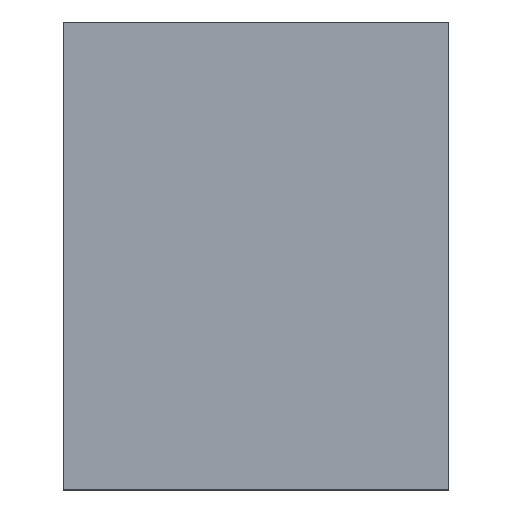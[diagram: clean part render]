
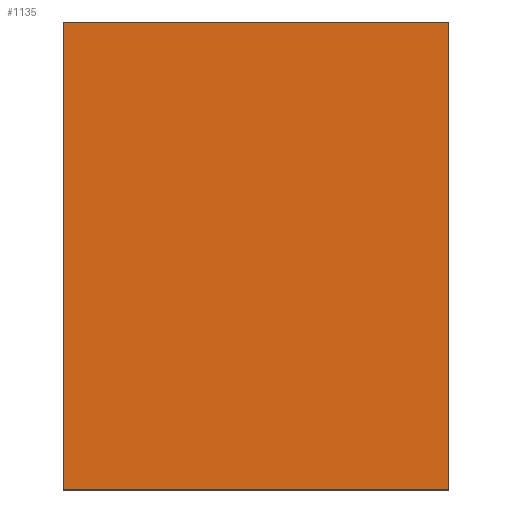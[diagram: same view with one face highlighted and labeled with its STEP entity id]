
A CAD part, left-side view. The second image highlights one B-rep face of the part: STEP entity #1135.
In plain terms, the highlighted planar face has unit normal (-1, 0, 0) as drawn and (1, 0, 0) by its records, which use the part's own axes.
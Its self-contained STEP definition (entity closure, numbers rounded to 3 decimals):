
#46 = CARTESIAN_POINT ( 'NONE',  ( 17., 0., 14. ) ) ;
#64 = CARTESIAN_POINT ( 'NONE',  ( 17., 0., 0. ) ) ;
#154 = EDGE_CURVE ( 'NONE', #245, #357, #1095, .T. ) ;
#163 = ORIENTED_EDGE ( 'NONE', *, *, #492, .F. ) ;
#211 = EDGE_LOOP ( 'NONE', ( #403, #163, #1326, #464 ) ) ;
#245 = VERTEX_POINT ( 'NONE', #804 ) ;
#304 = LINE ( 'NONE', #414, #751 ) ;
#357 = VERTEX_POINT ( 'NONE', #1280 ) ;
#371 = PLANE ( 'NONE',  #1193 ) ;
#403 = ORIENTED_EDGE ( 'NONE', *, *, #154, .T. ) ;
#407 = DIRECTION ( 'NONE',  ( 0., 0., -1. ) ) ;
#414 = CARTESIAN_POINT ( 'NONE',  ( 17., 17., 14. ) ) ;
#440 = VECTOR ( 'NONE', #889, 1000. ) ;
#458 = VERTEX_POINT ( 'NONE', #1377 ) ;
#462 = CARTESIAN_POINT ( 'NONE',  ( 17., 0., 14. ) ) ;
#464 = ORIENTED_EDGE ( 'NONE', *, *, #843, .T. ) ;
#474 = LINE ( 'NONE', #46, #440 ) ;
#487 = LINE ( 'NONE', #615, #1291 ) ;
#492 = EDGE_CURVE ( 'NONE', #458, #357, #304, .T. ) ;
#596 = DIRECTION ( 'NONE',  ( 0., 0., 1. ) ) ;
#615 = CARTESIAN_POINT ( 'NONE',  ( 17., 0., 14. ) ) ;
#621 = FACE_OUTER_BOUND ( 'NONE', #211, .T. ) ;
#751 = VECTOR ( 'NONE', #1194, 1000. ) ;
#804 = CARTESIAN_POINT ( 'NONE',  ( 17., 0., 0. ) ) ;
#843 = EDGE_CURVE ( 'NONE', #902, #245, #487, .T. ) ;
#889 = DIRECTION ( 'NONE',  ( 0., 1., 0. ) ) ;
#902 = VERTEX_POINT ( 'NONE', #1178 ) ;
#1002 = VECTOR ( 'NONE', #1039, 1000. ) ;
#1039 = DIRECTION ( 'NONE',  ( 0., 1., 0. ) ) ;
#1044 = EDGE_CURVE ( 'NONE', #902, #458, #474, .T. ) ;
#1095 = LINE ( 'NONE', #64, #1002 ) ;
#1135 = ADVANCED_FACE ( 'NONE', ( #621 ), #371, .F. ) ;
#1139 = DIRECTION ( 'NONE',  ( -1., 0., 0. ) ) ;
#1178 = CARTESIAN_POINT ( 'NONE',  ( 17., 0., 14. ) ) ;
#1193 = AXIS2_PLACEMENT_3D ( 'NONE', #462, #1139, #596 ) ;
#1194 = DIRECTION ( 'NONE',  ( 0., 0., -1. ) ) ;
#1280 = CARTESIAN_POINT ( 'NONE',  ( 17., 17., 0. ) ) ;
#1291 = VECTOR ( 'NONE', #407, 1000. ) ;
#1326 = ORIENTED_EDGE ( 'NONE', *, *, #1044, .F. ) ;
#1377 = CARTESIAN_POINT ( 'NONE',  ( 17., 17., 14. ) ) ;
